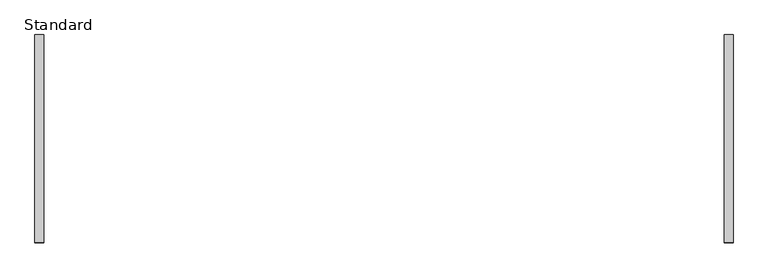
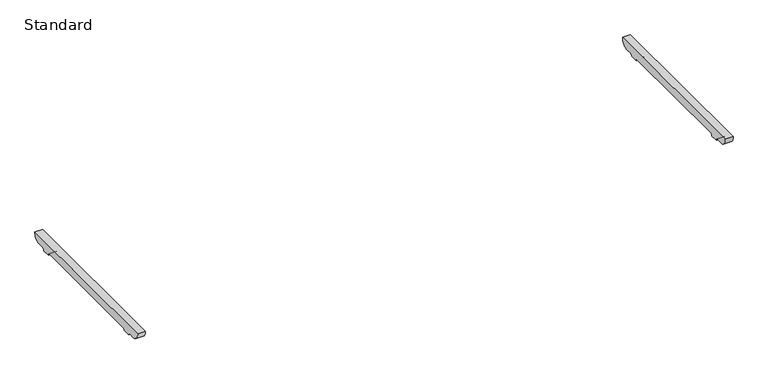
"""IFC4 building model written with IfcOpenShell, lengths in millimetres: furniture geometry, BDG_BossDesign_Tbls_AgentTables4Legs_Nested : Standard."""

from ifc_helpers import new_model, si_unit, point, frame, frame_2d, origin, place, context, project, spatial, polyline, circle_curve, trimmed, segment, composite_curve, outline, extrude, source, transform, mapped, element, save


def standard_4e0f21be(model_context):
    return source(origin(), model_context, "Body", "SweptSolid", [
        extrude(outline(composite_curve([segment(polyline([(480.5450184, 672.0), (442.7000122, 672.0)]), True, "CONTINUOUS"), segment(trimmed(circle_curve(frame_2d((442.7000122, 660.0)), 12.0), [point((442.7000122, 672.0))], [point((430.7000122, 660.0))], True, "CARTESIAN"), True, "CONTINUOUS"), segment(polyline([(430.7000122, 660.0), (385.7000122, 660.0)]), True, "CONTINUOUS"), segment(trimmed(circle_curve(frame_2d((373.7000122, 660.0)), 12.0), [point((385.7000122, 660.0))], [point((373.7000122, 672.0))], True, "CARTESIAN"), True, "CONTINUOUS"), segment(polyline([(373.7000122, 672.0), (-373.7000122, 672.0)]), True, "CONTINUOUS"), segment(trimmed(circle_curve(frame_2d((-373.7000122, 660.0)), 12.0), [point((-373.7000122, 672.0))], [point((-385.7000122, 660.0))], True, "CARTESIAN"), True, "CONTINUOUS"), segment(polyline([(-385.7000122, 660.0), (-430.7000122, 660.0)]), True, "CONTINUOUS"), segment(trimmed(circle_curve(frame_2d((-442.7000122, 660.0)), 12.0), [point((-430.7000122, 660.0))], [point((-442.7000122, 672.0))], True, "CARTESIAN"), True, "CONTINUOUS"), segment(polyline([(-442.7000122, 672.0), (-480.5450184, 672.0)]), True, "CONTINUOUS"), segment(trimmed(circle_curve(frame_2d((-478.2220439, 716.5514119)), 44.6119324), [point((-480.5450184, 672.0))], [point((-522.5, 722.0))], False, "CARTESIAN"), True, "CONTINUOUS"), segment(polyline([(-522.5, 722.0), (522.5, 722.0)]), True, "CONTINUOUS"), segment(trimmed(circle_curve(frame_2d((478.2220439, 716.5514119)), 44.6119324), [point((522.5, 722.0))], [point((480.5450184, 672.0))], False, "CARTESIAN"), True, "CONTINUOUS")], self_intersect=False)), frame((1705.0, 0.0, 0.0), z_axis=(1.0, 0.0, 0.0), x_axis=(0.0, 1.0, 0.0)), (0.0, 0.0, 1.0), 45.0),
        extrude(outline(composite_curve([segment(polyline([(480.5450184, 672.0), (442.7000122, 672.0)]), True, "CONTINUOUS"), segment(trimmed(circle_curve(frame_2d((442.7000122, 660.0)), 12.0), [point((442.7000122, 672.0))], [point((430.7000122, 660.0))], True, "CARTESIAN"), True, "CONTINUOUS"), segment(polyline([(430.7000122, 660.0), (385.7000122, 660.0)]), True, "CONTINUOUS"), segment(trimmed(circle_curve(frame_2d((373.7000122, 660.0)), 12.0), [point((385.7000122, 660.0))], [point((373.7000122, 672.0))], True, "CARTESIAN"), True, "CONTINUOUS"), segment(polyline([(373.7000122, 672.0), (-373.7000122, 672.0)]), True, "CONTINUOUS"), segment(trimmed(circle_curve(frame_2d((-373.7000122, 660.0)), 12.0), [point((-373.7000122, 672.0))], [point((-385.7000122, 660.0))], True, "CARTESIAN"), True, "CONTINUOUS"), segment(polyline([(-385.7000122, 660.0), (-430.7000122, 660.0)]), True, "CONTINUOUS"), segment(trimmed(circle_curve(frame_2d((-442.7000122, 660.0)), 12.0), [point((-430.7000122, 660.0))], [point((-442.7000122, 672.0))], True, "CARTESIAN"), True, "CONTINUOUS"), segment(polyline([(-442.7000122, 672.0), (-480.5450184, 672.0)]), True, "CONTINUOUS"), segment(trimmed(circle_curve(frame_2d((-478.2220439, 716.5514119)), 44.6119324), [point((-480.5450184, 672.0))], [point((-522.5, 722.0))], False, "CARTESIAN"), True, "CONTINUOUS"), segment(polyline([(-522.5, 722.0), (522.5, 722.0)]), True, "CONTINUOUS"), segment(trimmed(circle_curve(frame_2d((478.2220439, 716.5514119)), 44.6119324), [point((522.5, 722.0))], [point((480.5450184, 672.0))], False, "CARTESIAN"), True, "CONTINUOUS")], self_intersect=False)), frame((-1750.0, 0.0, 0.0), z_axis=(1.0, 0.0, 0.0), x_axis=(0.0, 1.0, 0.0)), (0.0, 0.0, 1.0), 45.0),
    ])


if __name__ == "__main__":
    model = new_model("IFC4")
    model_context = context("Model", 3, world=origin())
    ifc_project = project(units=[si_unit("LENGTHUNIT", "METRE", prefix="MILLI")], contexts=[model_context])
    site = spatial("IfcSite", under=ifc_project)
    building = spatial("IfcBuilding", under=site)
    placement = place(None, origin())
    standard_shape = standard_4e0f21be(model_context)
    element("IfcFurniture", 1, ObjectType="BDG_BossDesign_Tbls_AgentTables4Legs_Nested : Standard", at=placement, inside=building, context=model_context, shape_type="MappedRepresentation", body=[
        mapped(standard_shape, transform((0.0, 0.0, 0.0), x_axis=(1.0, 0.0, 0.0), y_axis=(0.0, 1.0, 0.0), z_axis=(0.0, 0.0, 1.0))),
    ])
    save(model, "model.ifc")
